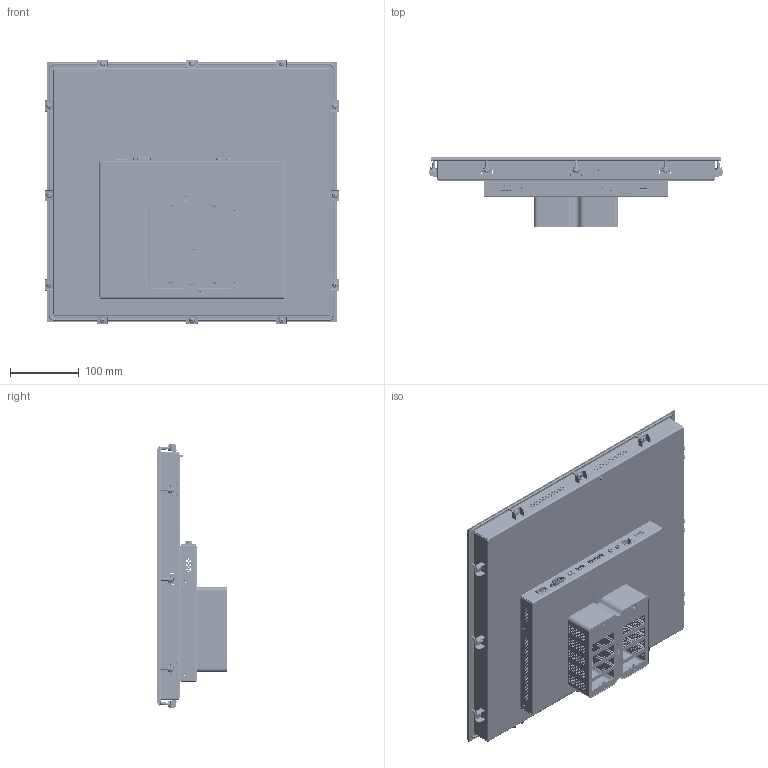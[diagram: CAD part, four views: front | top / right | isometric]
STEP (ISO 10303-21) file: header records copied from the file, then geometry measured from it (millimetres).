
FILE_DESCRIPTION (( 'STEP AP214' ), '1' );
FILE_NAME ('ﾏﾋﾊ19-01 ﾌ瑕褪.STEP', '2025-05-24T22:25:07', ( '' ), ( '' ), 'SwSTEP 2.0', 'SolidWorks 2021', '' );
FILE_SCHEMA (( 'AUTOMOTIVE_DESIGN' ));
Length unit declared in the file: millimetre
Products named in the file (1): ﾏﾋﾊ19-01 ﾌ瑕褪
Bounding box: 426.95 x 102.3 x 384.75 mm (x, y, z)
Surface area: 797508.2 mm2 (no closed solid volume)
Topology: 0 solids, 238 shells, 2695 faces, 15783 edges, 13111 vertices
Faces by surface type: cylinder 1380, plane 1130, cone 90, torus 49, bspline 46
Entity records: 193609 total; most frequent: CARTESIAN_POINT 46734, DIRECTION 22590, ORIENTED_EDGE 21204, EDGE_CURVE 15841, VERTEX_POINT 13174, LINE 8106, VECTOR 8106, AXIS2_PLACEMENT_3D 7242
